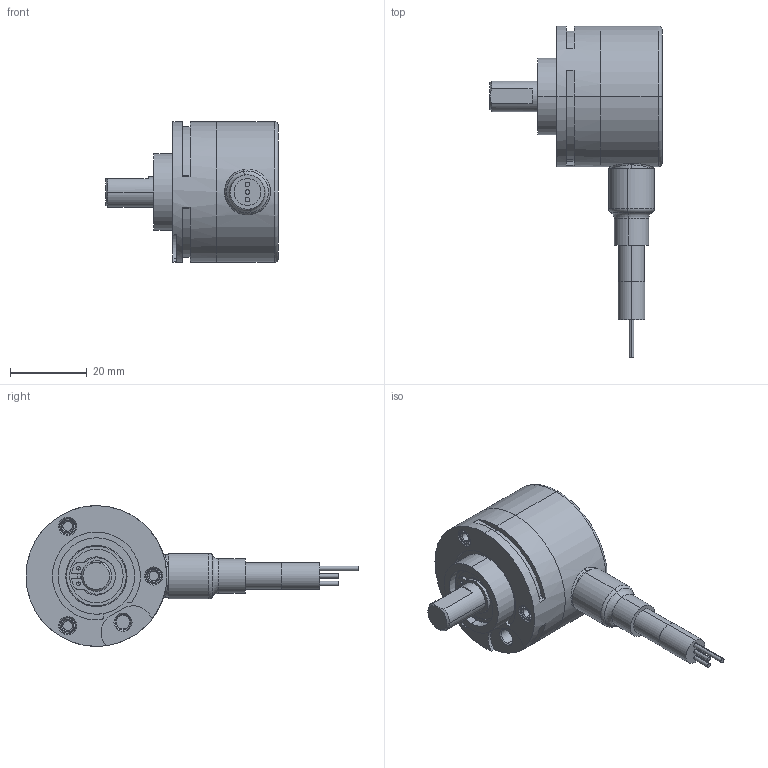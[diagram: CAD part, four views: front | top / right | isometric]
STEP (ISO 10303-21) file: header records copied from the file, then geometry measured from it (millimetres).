
FILE_DESCRIPTION (( 'STEP AP214' ), '1' );
FILE_NAME ('3700.16X2.XXXX.STEP', '2008-11-21T13:53:25', ( 'admin' ), ( 'Fritz Kübler GmbH' ), 'SwSTEP 2.0', 'SolidWorks 2008', '' );
FILE_SCHEMA (( 'AUTOMOTIVE_DESIGN' ));
Length unit declared in the file: millimetre
Products named in the file (1): 3700.16X2.XXXX
Bounding box: 45 x 86.8 x 36.8 mm (x, y, z)
Volume: 16155.3 mm3; surface area: 18423.9 mm2
Topology: 10 solids, 11 shells, 1121 faces, 2989 edges, 1876 vertices
Faces by surface type: cylinder 352, plane 352, bspline 173, torus 122, cone 81, sphere 41
Entity records: 52657 total; most frequent: CARTESIAN_POINT 15140, ORIENTED_EDGE 5852, DIRECTION 4904, EDGE_CURVE 2926, AXIS2_PLACEMENT_3D 2174, VERTEX_POINT 1842, CIRCLE 1225, EDGE_LOOP 1172
